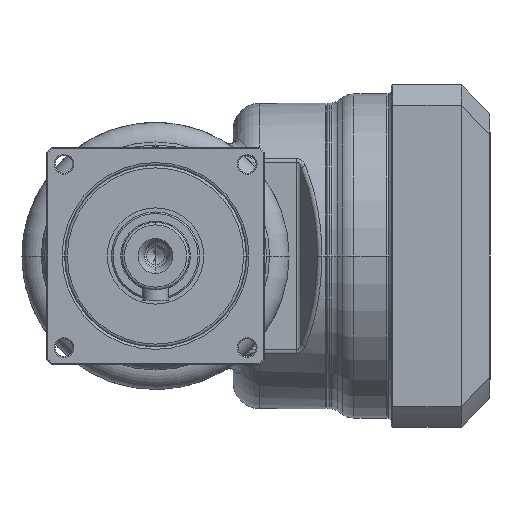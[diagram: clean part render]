
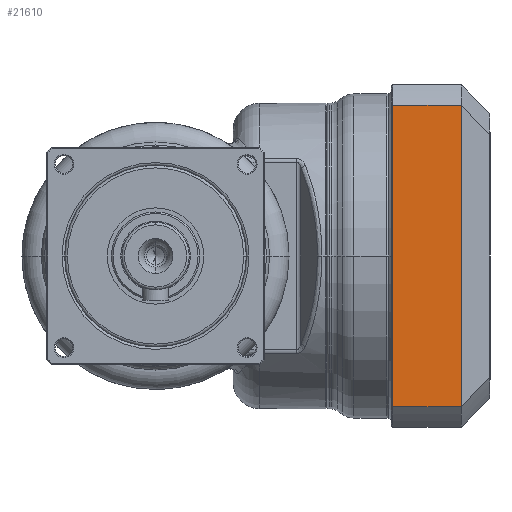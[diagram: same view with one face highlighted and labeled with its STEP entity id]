
A CAD part, left-side view. The second image highlights one B-rep face of the part: STEP entity #21610.
In plain terms, the highlighted planar face has unit normal (-1, 0, 0) as drawn and (0, -1, 0) by its records, which use the part's own axes.
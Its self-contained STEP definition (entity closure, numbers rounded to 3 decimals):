
#20364=DIRECTION('',(1.,0.,0.));
#20365=VECTOR('',#20364,58.207);
#20366=CARTESIAN_POINT('',(-29.103,-33.,15.5));
#20367=LINE('',#20366,#20365);
#20368=DIRECTION('',(0.,0.,1.));
#20369=VECTOR('',#20368,13.3);
#20370=CARTESIAN_POINT('',(29.103,-33.,
2.2));
#20371=LINE('',#20370,#20369);
#20372=DIRECTION('',(1.,0.,0.));
#20373=VECTOR('',#20372,58.207);
#20374=CARTESIAN_POINT('',(-29.103,-33.,
2.2));
#20375=LINE('',#20374,#20373);
#20376=DIRECTION('',(0.,0.,1.));
#20377=VECTOR('',#20376,13.3);
#20378=CARTESIAN_POINT('',(-29.103,-33.,
2.2));
#20379=LINE('',#20378,#20377);
#20385=CARTESIAN_POINT('',(29.103,-33.,15.5));
#20700=CARTESIAN_POINT('',(-29.103,-33.,2.2));
#20702=VERTEX_POINT('',#20700);
#20705=CARTESIAN_POINT('',(29.103,-33.,
2.2));
#20706=VERTEX_POINT('',#20705);
#20752=CARTESIAN_POINT('',(-29.103,-33.,15.5));
#20754=VERTEX_POINT('',#20752);
#20762=VERTEX_POINT('',#20385);
#21598=CARTESIAN_POINT('',(-33.,-33.,0.));
#21599=DIRECTION('',(0.,-1.,0.));
#21600=DIRECTION('',(1.,0.,0.));
#21601=AXIS2_PLACEMENT_3D('',#21598,#21599,#21600);
#21602=PLANE('',#21601);
#21604=ORIENTED_EDGE('',*,*,#21603,.T.);
#21605=ORIENTED_EDGE('',*,*,#21514,.F.);
#21606=ORIENTED_EDGE('',*,*,#21592,.F.);
#21607=ORIENTED_EDGE('',*,*,#21525,.T.);
#21608=EDGE_LOOP('',(#21604,#21605,#21606,#21607));
#21609=FACE_OUTER_BOUND('',#21608,.F.);
#21610=ADVANCED_FACE('',(#21609),#21602,.T.);
#21514=EDGE_CURVE('',#20706,#20762,#20371,.T.);
#21525=EDGE_CURVE('',#20702,#20754,#20379,.T.);
#21592=EDGE_CURVE('',#20702,#20706,#20375,.T.);
#21603=EDGE_CURVE('',#20754,#20762,#20367,.T.);
